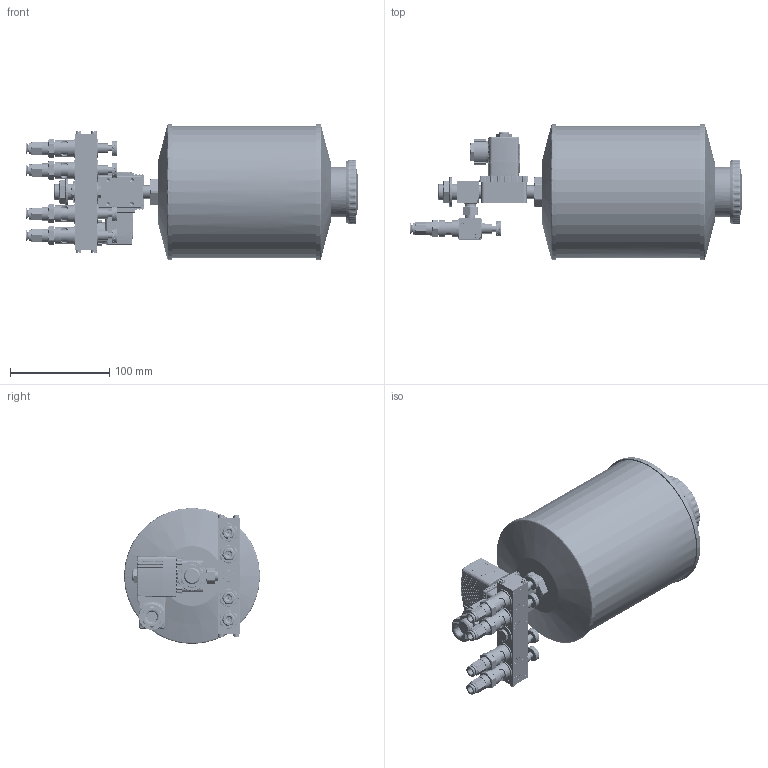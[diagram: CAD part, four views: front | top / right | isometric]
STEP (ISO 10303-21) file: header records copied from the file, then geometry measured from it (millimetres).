
FILE_DESCRIPTION (( 'STEP AP214' ), '1' );
FILE_NAME ('TRO_03_02_04_XXX.STEP', '2025-11-24T13:24:10', ( '' ), ( '' ), 'SwSTEP 2.0', 'SolidWorks 2022', '' );
FILE_SCHEMA (( 'AUTOMOTIVE_DESIGN' ));
Length unit declared in the file: millimetre
Products named in the file (20): OR 7.66X1.78; TRO_03_02_04_XXX; TRO_1er_Mit_Verschr.SLDPRT; TRO_2er; TRO_Magnetventil_aktuell; 9911 0701 0601_6_1_8_HD; DR6_NEU; TRO_Stutzen.SLDPRT; TRO_Endplatte; TRO_Magnetventil_Stecker; TRO_2er_mittel; DR6-C_HDX_25.07.16; RIVOLUZIONE_0; TRO_2er_mittel_Mit_Verschr.SLDPRT; TRO_Magnetventil_ohne; R200107-N1; TRO_Behaelter_02; OR 7.2X1.9_1
Assembly tree (19 placements, depth 4):
  TRO_03_02_04_XXX
    TRO_2er_mittel_Mit_Verschr.SLDPRT
      TRO_Stutzen.SLDPRT
        TRO_2er_mittel
      TRO_2er
      9911 0701 0601_6_1_8_HD  x2
        RIVOLUZIONE_0
        OR 7.66X1.78
        DR6-C_HDX_25.07.16
    TRO_1er_Mit_Verschr.SLDPRT  x2
      TRO_2er
      9911 0701 0601_6_1_8_HD
        RIVOLUZIONE_0
        OR 7.66X1.78
        DR6-C_HDX_25.07.16
    TRO_Endplatte  x2
    TRO_Magnetventil_aktuell
      TRO_Magnetventil_ohne
      TRO_Magnetventil_Stecker
    TRO_Behaelter_02
  DR6_NEU
  TRO_2er_mittel
  R200107-N1
  OR 7.2X1.9_1
Bounding box: 335.2 x 137.4 x 137.4 mm (x, y, z)
Volume: 482971.9 mm3; surface area: 317588.9 mm2
Topology: 28 solids, 28 shells, 7078 faces, 18410 edges, 11479 vertices
Faces by surface type: plane 2689, bspline 2590, cylinder 1126, cone 670, torus 3
Full cylindrical faces by diameter (mm): 1.5 x4, 2 x4, 3.5 x8, 3.8 x4, 4.2 x4, 4.5 x4, 5.5 x4, 5.9 x8, 6 x2, 6.2 x4, 6.25 x1, 6.3 x4, 6.75 x1, 7 x5, 7.2 x4, 7.4 x1, 8 x2, 8.3 x4, 8.4 x1, 8.5 x1, 8.6 x7, 8.8 x1, 9 x5, 9.2 x1, 9.5 x4, 9.728 x4, 9.8 x1, 9.9 x4, 10 x12, 10.1 x1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
Entity records: 314785 total; most frequent: CARTESIAN_POINT 173274, ORIENTED_EDGE 32212, DIRECTION 18066, EDGE_CURVE 16106, VERTEX_POINT 10219, B_SPLINE_CURVE_WITH_KNOTS 7740, EDGE_LOOP 6971, AXIS2_PLACEMENT_3D 6721
